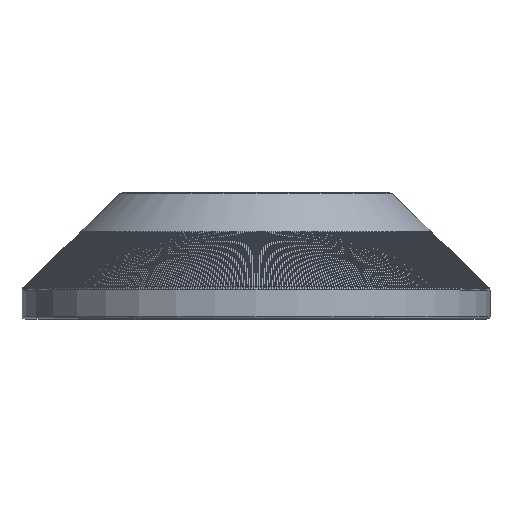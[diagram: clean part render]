
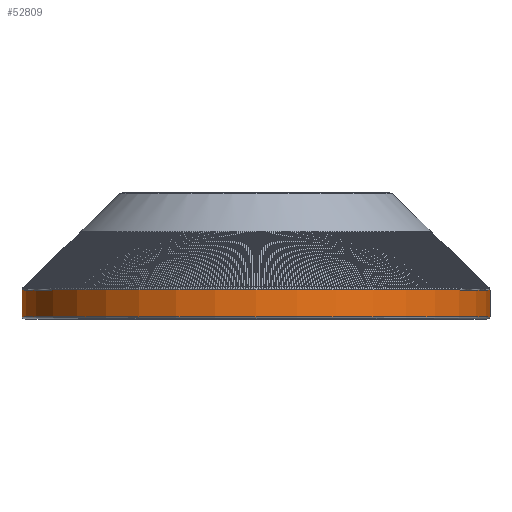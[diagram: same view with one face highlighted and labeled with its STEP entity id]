
A CAD part, top view. The second image highlights one B-rep face of the part: STEP entity #52809.
In plain terms, the highlighted cylindrical face has radius 11.5 mm (diameter 23 mm), a full revolution.
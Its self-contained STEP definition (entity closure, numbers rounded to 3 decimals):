
#6446=FACE_OUTER_BOUND('',#9388,.T.);
#9388=EDGE_LOOP('',(#49283,#49284,#49285,#49286));
#9685=CIRCLE('',#53129,11.5);
#12263=CIRCLE('',#56315,11.5);
#17026=LINE('',#221111,#17133);
#17133=VECTOR('',#63411,11.5);
#18017=VERTEX_POINT('',#72503);
#22978=VERTEX_POINT('',#221107);
#23870=EDGE_CURVE('',#18017,#18017,#9685,.T.);
#31747=EDGE_CURVE('',#22978,#22978,#12263,.T.);
#31749=EDGE_CURVE('',#18017,#22978,#17026,.T.);
#49283=ORIENTED_EDGE('',*,*,#23870,.F.);
#49284=ORIENTED_EDGE('',*,*,#31749,.T.);
#49285=ORIENTED_EDGE('',*,*,#31747,.F.);
#49286=ORIENTED_EDGE('',*,*,#31749,.F.);
#49876=CYLINDRICAL_SURFACE('',#56317,11.5);
#52809=ADVANCED_FACE('',(#6446),#49876,.T.);
#53129=AXIS2_PLACEMENT_3D('',#72505,#56934,#56935);
#56315=AXIS2_PLACEMENT_3D('',#221108,#63405,#63406);
#56317=AXIS2_PLACEMENT_3D('',#221110,#63409,#63410);
#56934=DIRECTION('center_axis',(0.,1.,0.));
#56935=DIRECTION('ref_axis',(0.,0.,-1.));
#63405=DIRECTION('center_axis',(0.,-1.,0.));
#63406=DIRECTION('ref_axis',(0.,0.,-1.));
#63409=DIRECTION('center_axis',(0.,1.,0.));
#63410=DIRECTION('ref_axis',(0.,0.,1.));
#63411=DIRECTION('',(0.,-1.,0.));
#72503=CARTESIAN_POINT('',(0.,1.415,-11.5));
#72505=CARTESIAN_POINT('Origin',(0.,1.415,0.));
#221107=CARTESIAN_POINT('',(0.,0.1,-11.5));
#221108=CARTESIAN_POINT('Origin',(0.,0.1,0.));
#221110=CARTESIAN_POINT('Origin',(0.,0.75,0.));
#221111=CARTESIAN_POINT('',(0.,0.75,-11.5));
